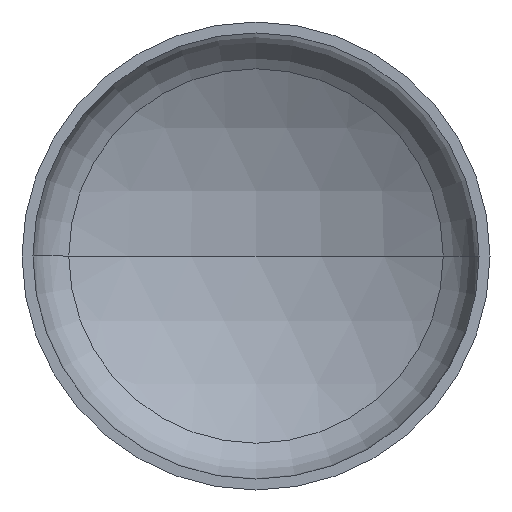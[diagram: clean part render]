
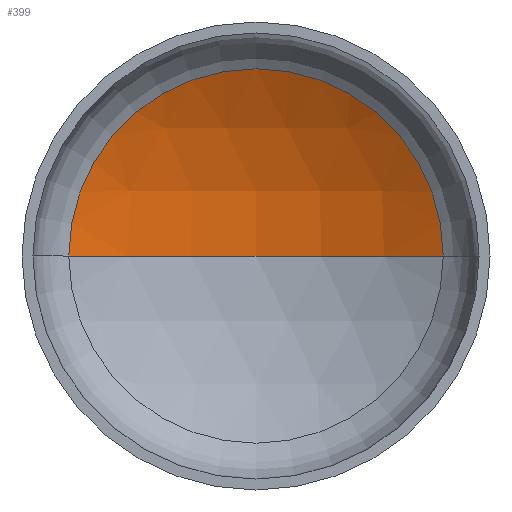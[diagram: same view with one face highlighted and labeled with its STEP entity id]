
A CAD part, front view. The second image highlights one B-rep face of the part: STEP entity #399.
In plain terms, the highlighted spherical face has radius 1200 mm.
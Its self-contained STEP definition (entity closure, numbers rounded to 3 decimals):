
#7 = AXIS2_PLACEMENT_3D ( 'NONE', #94, #109, #292 ) ;
#21 = SPHERICAL_SURFACE ( 'NONE', #340, 1200. ) ;
#22 = EDGE_LOOP ( 'NONE', ( #123, #84, #121 ) ) ;
#24 = AXIS2_PLACEMENT_3D ( 'NONE', #214, #216, #81 ) ;
#26 = AXIS2_PLACEMENT_3D ( 'NONE', #375, #166, #151 ) ;
#32 = VERTEX_POINT ( 'NONE', #285 ) ;
#81 = DIRECTION ( 'NONE',  ( -1., 0., 0. ) ) ;
#84 = ORIENTED_EDGE ( 'NONE', *, *, #350, .T. ) ;
#94 = CARTESIAN_POINT ( 'NONE',  ( 0., -730.045, 0. ) ) ;
#109 = DIRECTION ( 'NONE',  ( 0., 0., 1. ) ) ;
#121 = ORIENTED_EDGE ( 'NONE', *, *, #349, .T. ) ;
#123 = ORIENTED_EDGE ( 'NONE', *, *, #388, .F. ) ;
#126 = VERTEX_POINT ( 'NONE', #297 ) ;
#130 = CARTESIAN_POINT ( 'NONE',  ( -600., 309.186, 0. ) ) ;
#151 = DIRECTION ( 'NONE',  ( 1., 0., 0. ) ) ;
#155 = CARTESIAN_POINT ( 'NONE',  ( 0., -730.045, 0. ) ) ;
#166 = DIRECTION ( 'NONE',  ( 0., -1., 0. ) ) ;
#214 = CARTESIAN_POINT ( 'NONE',  ( 0., -730.045, 0. ) ) ;
#216 = DIRECTION ( 'NONE',  ( 0., 0., -1. ) ) ;
#270 = DIRECTION ( 'NONE',  ( -1., 0., 0. ) ) ;
#272 = DIRECTION ( 'NONE',  ( 0., 0., -1. ) ) ;
#285 = CARTESIAN_POINT ( 'NONE',  ( 600., 309.186, 0. ) ) ;
#292 = DIRECTION ( 'NONE',  ( 1., 0., 0. ) ) ;
#297 = CARTESIAN_POINT ( 'NONE',  ( 0., 469.955, 0. ) ) ;
#304 = FACE_OUTER_BOUND ( 'NONE', #22, .T. ) ;
#320 = CIRCLE ( 'NONE', #26, 600. ) ;
#338 = VERTEX_POINT ( 'NONE', #130 ) ;
#340 = AXIS2_PLACEMENT_3D ( 'NONE', #155, #272, #270 ) ;
#349 = EDGE_CURVE ( 'NONE', #32, #338, #320, .T. ) ;
#350 = EDGE_CURVE ( 'NONE', #126, #32, #382, .T. ) ;
#369 = CIRCLE ( 'NONE', #7, 1200. ) ;
#375 = CARTESIAN_POINT ( 'NONE',  ( 0., 309.186, 0. ) ) ;
#382 = CIRCLE ( 'NONE', #24, 1200. ) ;
#388 = EDGE_CURVE ( 'NONE', #126, #338, #369, .T. ) ;
#399 = ADVANCED_FACE ( 'NONE', ( #304 ), #21, .F. ) ;
